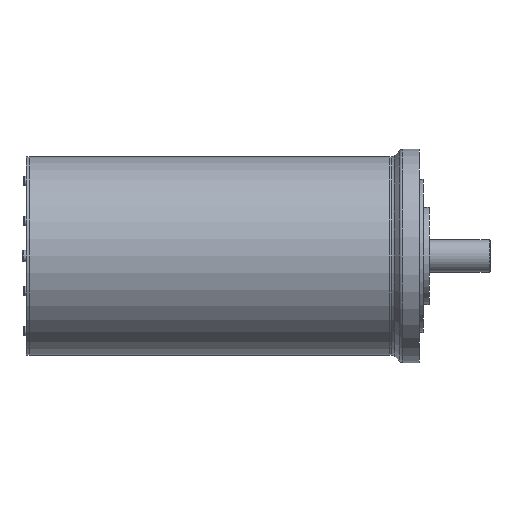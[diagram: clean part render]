
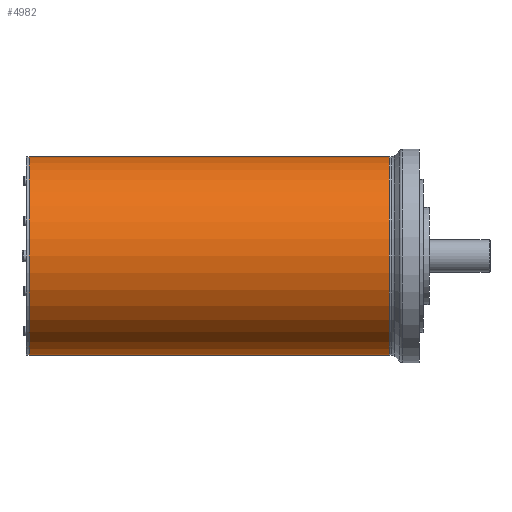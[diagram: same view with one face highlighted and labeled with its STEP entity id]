
A CAD part, front view. The second image highlights one B-rep face of the part: STEP entity #4982.
In plain terms, the highlighted cylindrical face has radius 84.138 mm (diameter 168.275 mm), a partial arc.
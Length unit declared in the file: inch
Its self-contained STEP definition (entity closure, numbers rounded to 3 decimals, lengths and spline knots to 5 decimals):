
#267 = DIRECTION ( 'NONE',  ( 1., 0., 0. ) ) ;
#1094 = DIRECTION ( 'NONE',  ( -1., 0., 0. ) ) ;
#1247 = EDGE_CURVE ( 'NONE', #17329, #12731, #3691, .T. ) ;
#1268 = VERTEX_POINT ( 'NONE', #16861 ) ;
#1407 = CARTESIAN_POINT ( 'NONE',  ( -13.17, 0., 3.3125 ) ) ;
#1854 = VECTOR ( 'NONE', #267, 39.37008 ) ;
#1925 = CYLINDRICAL_SURFACE ( 'NONE', #10388, 3.3125 ) ;
#2141 = AXIS2_PLACEMENT_3D ( 'NONE', #9992, #1094, #11496 ) ;
#3308 = CARTESIAN_POINT ( 'NONE',  ( -1.133, 0., -3.3125 ) ) ;
#3620 = CARTESIAN_POINT ( 'NONE',  ( -13.17, 0., 0. ) ) ;
#3691 = CIRCLE ( 'NONE', #14048, 3.3125 ) ;
#4098 = EDGE_LOOP ( 'NONE', ( #6374, #16164, #16387, #11773 ) ) ;
#4624 = EDGE_CURVE ( 'NONE', #1268, #14765, #12425, .T. ) ;
#4982 = ADVANCED_FACE ( 'NONE', ( #6352 ), #1925, .T. ) ;
#5100 = DIRECTION ( 'NONE',  ( 0., 0., -1. ) ) ;
#6352 = FACE_OUTER_BOUND ( 'NONE', #4098, .T. ) ;
#6374 = ORIENTED_EDGE ( 'NONE', *, *, #1247, .F. ) ;
#7927 = CARTESIAN_POINT ( 'NONE',  ( -13.17, 0., 0. ) ) ;
#9414 = DIRECTION ( 'NONE',  ( 0., 0., 1. ) ) ;
#9495 = CARTESIAN_POINT ( 'NONE',  ( -13.17, 0., -3.3125 ) ) ;
#9992 = CARTESIAN_POINT ( 'NONE',  ( -1.133, 0., 0. ) ) ;
#10057 = VECTOR ( 'NONE', #12493, 39.37008 ) ;
#10388 = AXIS2_PLACEMENT_3D ( 'NONE', #3620, #11028, #5100 ) ;
#10538 = LINE ( 'NONE', #9495, #10057 ) ;
#11028 = DIRECTION ( 'NONE',  ( 1., 0., 0. ) ) ;
#11496 = DIRECTION ( 'NONE',  ( 0., 0., 1. ) ) ;
#11773 = ORIENTED_EDGE ( 'NONE', *, *, #17516, .F. ) ;
#12425 = CIRCLE ( 'NONE', #2141, 3.3125 ) ;
#12493 = DIRECTION ( 'NONE',  ( 1., 0., 0. ) ) ;
#12731 = VERTEX_POINT ( 'NONE', #14344 ) ;
#13264 = LINE ( 'NONE', #18112, #1854 ) ;
#14048 = AXIS2_PLACEMENT_3D ( 'NONE', #7927, #18378, #9414 ) ;
#14079 = EDGE_CURVE ( 'NONE', #17329, #1268, #13264, .T. ) ;
#14344 = CARTESIAN_POINT ( 'NONE',  ( -13.17, 0., -3.3125 ) ) ;
#14765 = VERTEX_POINT ( 'NONE', #3308 ) ;
#16164 = ORIENTED_EDGE ( 'NONE', *, *, #14079, .T. ) ;
#16387 = ORIENTED_EDGE ( 'NONE', *, *, #4624, .T. ) ;
#16861 = CARTESIAN_POINT ( 'NONE',  ( -1.133, 0., 3.3125 ) ) ;
#17329 = VERTEX_POINT ( 'NONE', #1407 ) ;
#17516 = EDGE_CURVE ( 'NONE', #12731, #14765, #10538, .T. ) ;
#18112 = CARTESIAN_POINT ( 'NONE',  ( -13.17, 0., 3.3125 ) ) ;
#18378 = DIRECTION ( 'NONE',  ( -1., 0., 0. ) ) ;
